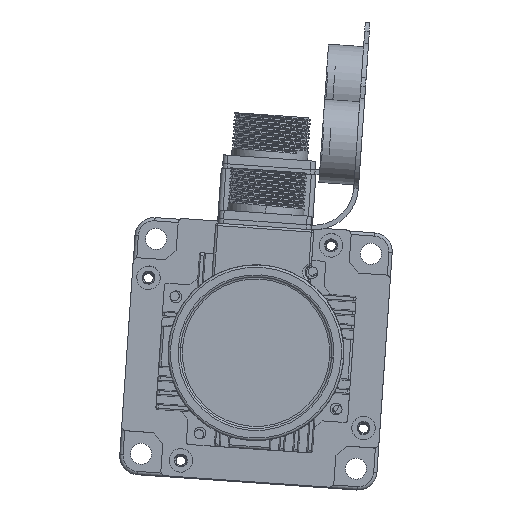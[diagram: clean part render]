
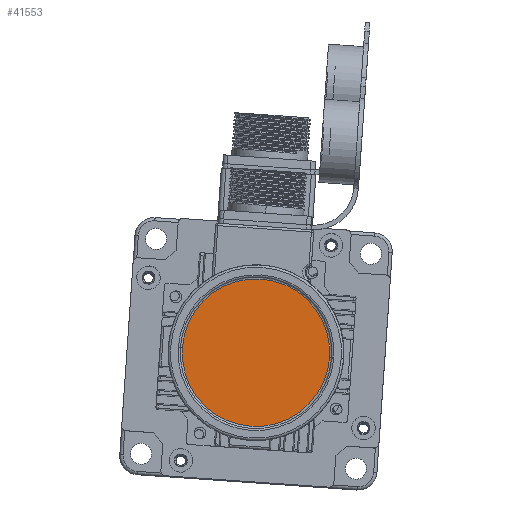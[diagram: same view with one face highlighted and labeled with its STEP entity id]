
A CAD part, top view. The second image highlights one B-rep face of the part: STEP entity #41553.
In plain terms, the highlighted planar face has unit normal (0, 0, 1) as drawn and (0, 0, -1) by its records, which use the part's own axes.
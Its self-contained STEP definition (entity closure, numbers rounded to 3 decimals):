
#2939 = ORIENTED_EDGE ( 'NONE', *, *, #7437, .T. ) ;
#5722 = CIRCLE ( 'NONE', #48855, 31.5 ) ;
#5861 = DIRECTION ( 'NONE',  ( -1., 0., 0. ) ) ;
#7437 = EDGE_CURVE ( 'NONE', #40967, #55411, #41402, .T. ) ;
#7740 = EDGE_CURVE ( 'NONE', #55411, #40967, #5722, .T. ) ;
#10226 = CARTESIAN_POINT ( 'NONE',  ( 0., 0., -41.5 ) ) ;
#11737 = CARTESIAN_POINT ( 'NONE',  ( -31.5, 0., -41.5 ) ) ;
#13336 = AXIS2_PLACEMENT_3D ( 'NONE', #10226, #42135, #14836 ) ;
#14836 = DIRECTION ( 'NONE',  ( -1., 0., 0. ) ) ;
#26399 = CARTESIAN_POINT ( 'NONE',  ( 0., 0., -41.5 ) ) ;
#30977 = DIRECTION ( 'NONE',  ( -1., 0., 0. ) ) ;
#31761 = ORIENTED_EDGE ( 'NONE', *, *, #7740, .T. ) ;
#31901 = CARTESIAN_POINT ( 'NONE',  ( 31.5, 0., -41.5 ) ) ;
#33188 = DIRECTION ( 'NONE',  ( 0., 0., -1. ) ) ;
#37552 = PLANE ( 'NONE',  #39307 ) ;
#39307 = AXIS2_PLACEMENT_3D ( 'NONE', #46734, #33188, #5861 ) ;
#40967 = VERTEX_POINT ( 'NONE', #31901 ) ;
#41402 = CIRCLE ( 'NONE', #13336, 31.5 ) ;
#41553 = ADVANCED_FACE ( 'NONE', ( #55795 ), #37552, .T. ) ;
#42135 = DIRECTION ( 'NONE',  ( 0., 0., -1. ) ) ;
#46734 = CARTESIAN_POINT ( 'NONE',  ( 0., 0., -41.5 ) ) ;
#48855 = AXIS2_PLACEMENT_3D ( 'NONE', #26399, #58126, #30977 ) ;
#52042 = EDGE_LOOP ( 'NONE', ( #31761, #2939 ) ) ;
#55411 = VERTEX_POINT ( 'NONE', #11737 ) ;
#55795 = FACE_OUTER_BOUND ( 'NONE', #52042, .T. ) ;
#58126 = DIRECTION ( 'NONE',  ( 0., 0., -1. ) ) ;
